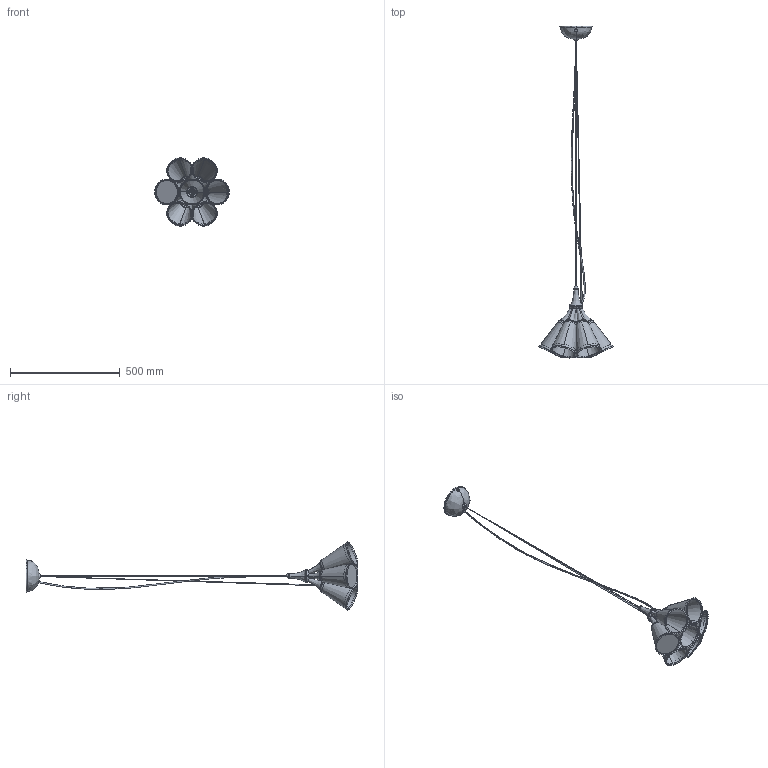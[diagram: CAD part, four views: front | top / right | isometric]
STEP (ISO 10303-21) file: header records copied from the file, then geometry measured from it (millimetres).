
FILE_DESCRIPTION (( 'STEP AP203' ), '1' );
FILE_NAME ('Jamz_colgante_simplf.STEP', '2018-07-13T08:22:01', ( 'Usuario de Windows' ), ( '' ), 'SwSTEP 2.0', 'SolidWorks 2017', '' );
FILE_SCHEMA (( 'CONFIG_CONTROL_DESIGN' ));
Length unit declared in the file: millimetre
Products named in the file (1): Jamz_colgante_simplf
Bounding box: 338.94 x 1512.3 x 310.43 mm (x, y, z)
Volume: 1153747.7 mm3; surface area: 834639.6 mm2
Topology: 29 solids, 29 shells, 701 faces, 1664 edges, 1048 vertices
Faces by surface type: cylinder 179, plane 152, cone 152, torus 120, bspline 96, sphere 2
Entity records: 39321 total; most frequent: CARTESIAN_POINT 23009, DIRECTION 3566, ORIENTED_EDGE 3324, EDGE_CURVE 1662, AXIS2_PLACEMENT_3D 1579, VERTEX_POINT 1048, CIRCLE 973, EDGE_LOOP 808
